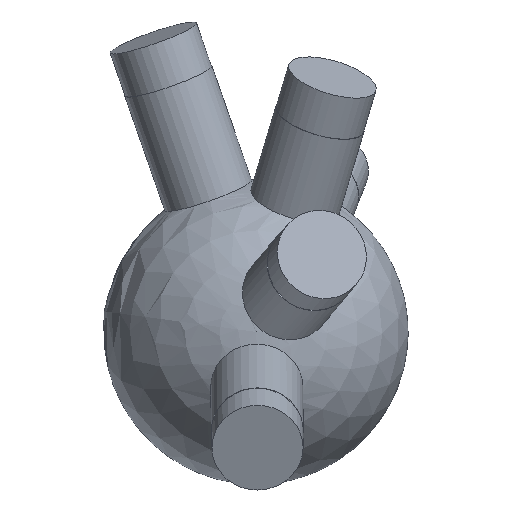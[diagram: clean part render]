
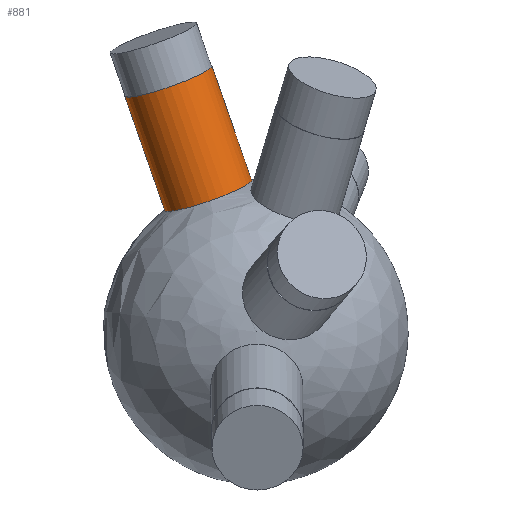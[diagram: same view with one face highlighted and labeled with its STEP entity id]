
A CAD part, top view. The second image highlights one B-rep face of the part: STEP entity #881.
In plain terms, the highlighted cylindrical face has radius 6 mm (diameter 12 mm), a full revolution.
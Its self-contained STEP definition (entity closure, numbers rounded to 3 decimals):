
#33 = SPHERICAL_SURFACE('',#34,20.);
#34 = AXIS2_PLACEMENT_3D('',#35,#36,#37);
#35 = CARTESIAN_POINT('',(0.,0.,0.));
#36 = DIRECTION('',(0.,0.,1.));
#37 = DIRECTION('',(1.,0.,-0.));
#475 = EDGE_CURVE('',#476,#476,#478,.T.);
#476 = VERTEX_POINT('',#477);
#477 = CARTESIAN_POINT('',(-0.57,19.838,
    2.475));
#478 = SURFACE_CURVE('',#479,(#484,#546),.PCURVE_S1.);
#479 = CIRCLE('',#480,6.);
#480 = AXIS2_PLACEMENT_3D('',#481,#482,#483);
#481 = CARTESIAN_POINT('',(-6.235,17.861,
    2.475));
#482 = DIRECTION('',(-0.327,0.936,0.13));
#483 = DIRECTION('',(-0.944,-0.33,0.
    ));
#484 = PCURVE('',#33,#485);
#485 = DEFINITIONAL_REPRESENTATION('',(#486),#545);
#486 = B_SPLINE_CURVE_WITH_KNOTS('',8,(#487,#488,#489,#490,#491,#492,
    #493,#494,#495,#496,#497,#498,#499,#500,#501,#502,#503,#504,#505,
    #506,#507,#508,#509,#510,#511,#512,#513,#514,#515,#516,#517,#518,
    #519,#520,#521,#522,#523,#524,#525,#526,#527,#528,#529,#530,#531,
    #532,#533,#534,#535,#536,#537,#538,#539,#540,#541,#542,#543,#544),
  .UNSPECIFIED.,.F.,.F.,(9,7,7,7,7,7,7,7,9),(3.142,
    3.927,4.614,5.216,6.268,
    7.057,7.649,8.537,9.425),
  .UNSPECIFIED.);
#487 = CARTESIAN_POINT('',(1.6,0.124));
#488 = CARTESIAN_POINT('',(1.601,0.095));
#489 = CARTESIAN_POINT('',(1.605,0.065));
#490 = CARTESIAN_POINT('',(1.612,0.037));
#491 = CARTESIAN_POINT('',(1.623,0.009));
#492 = CARTESIAN_POINT('',(1.636,-0.018));
#493 = CARTESIAN_POINT('',(1.652,-0.043));
#494 = CARTESIAN_POINT('',(1.671,-0.066));
#495 = CARTESIAN_POINT('',(1.71,-0.105));
#496 = CARTESIAN_POINT('',(1.731,-0.121));
#497 = CARTESIAN_POINT('',(1.752,-0.136));
#498 = CARTESIAN_POINT('',(1.776,-0.148));
#499 = CARTESIAN_POINT('',(1.8,-0.158));
#500 = CARTESIAN_POINT('',(1.825,-0.166));
#501 = CARTESIAN_POINT('',(1.851,-0.171));
#502 = CARTESIAN_POINT('',(1.9,-0.175));
#503 = CARTESIAN_POINT('',(1.923,-0.176));
#504 = CARTESIAN_POINT('',(1.946,-0.174));
#505 = CARTESIAN_POINT('',(1.968,-0.17));
#506 = CARTESIAN_POINT('',(1.991,-0.165));
#507 = CARTESIAN_POINT('',(2.012,-0.157));
#508 = CARTESIAN_POINT('',(2.033,-0.148));
#509 = CARTESIAN_POINT('',(2.088,-0.118));
#510 = CARTESIAN_POINT('',(2.12,-0.094));
#511 = CARTESIAN_POINT('',(2.148,-0.065));
#512 = CARTESIAN_POINT('',(2.172,-0.033));
#513 = CARTESIAN_POINT('',(2.19,0.003));
#514 = CARTESIAN_POINT('',(2.204,0.041));
#515 = CARTESIAN_POINT('',(2.211,0.08));
#516 = CARTESIAN_POINT('',(2.215,0.149));
#517 = CARTESIAN_POINT('',(2.214,0.179));
#518 = CARTESIAN_POINT('',(2.209,0.208));
#519 = CARTESIAN_POINT('',(2.201,0.237));
#520 = CARTESIAN_POINT('',(2.189,0.265));
#521 = CARTESIAN_POINT('',(2.175,0.291));
#522 = CARTESIAN_POINT('',(2.157,0.316));
#523 = CARTESIAN_POINT('',(2.121,0.355));
#524 = CARTESIAN_POINT('',(2.103,0.37));
#525 = CARTESIAN_POINT('',(2.085,0.384));
#526 = CARTESIAN_POINT('',(2.065,0.397));
#527 = CARTESIAN_POINT('',(2.043,0.407));
#528 = CARTESIAN_POINT('',(2.021,0.416));
#529 = CARTESIAN_POINT('',(1.998,0.423));
#530 = CARTESIAN_POINT('',(1.938,0.435));
#531 = CARTESIAN_POINT('',(1.901,0.438));
#532 = CARTESIAN_POINT('',(1.864,0.436));
#533 = CARTESIAN_POINT('',(1.827,0.43));
#534 = CARTESIAN_POINT('',(1.792,0.419));
#535 = CARTESIAN_POINT('',(1.759,0.404));
#536 = CARTESIAN_POINT('',(1.729,0.385));
#537 = CARTESIAN_POINT('',(1.676,0.34));
#538 = CARTESIAN_POINT('',(1.653,0.315));
#539 = CARTESIAN_POINT('',(1.634,0.286));
#540 = CARTESIAN_POINT('',(1.619,0.256));
#541 = CARTESIAN_POINT('',(1.608,0.224));
#542 = CARTESIAN_POINT('',(1.601,0.191));
#543 = CARTESIAN_POINT('',(1.598,0.157));
#544 = CARTESIAN_POINT('',(1.6,0.124));
#545 = ( GEOMETRIC_REPRESENTATION_CONTEXT(2) 
PARAMETRIC_REPRESENTATION_CONTEXT() REPRESENTATION_CONTEXT('2D SPACE',''
  ) );
#546 = PCURVE('',#547,#552);
#547 = CYLINDRICAL_SURFACE('',#548,6.);
#548 = AXIS2_PLACEMENT_3D('',#549,#550,#551);
#549 = CARTESIAN_POINT('',(0.,0.,0.));
#550 = DIRECTION('',(-0.327,0.936,0.13));
#551 = DIRECTION('',(0.944,0.33,0.));
#552 = DEFINITIONAL_REPRESENTATION('',(#553),#557);
#553 = LINE('',#554,#555);
#554 = CARTESIAN_POINT('',(-3.142,19.079));
#555 = VECTOR('',#556,1.);
#556 = DIRECTION('',(1.,0.));
#557 = ( GEOMETRIC_REPRESENTATION_CONTEXT(2) 
PARAMETRIC_REPRESENTATION_CONTEXT() REPRESENTATION_CONTEXT('2D SPACE',''
  ) );
#881 = ADVANCED_FACE('',(#882),#547,.T.);
#882 = FACE_BOUND('',#883,.T.);
#883 = EDGE_LOOP('',(#884,#907,#934,#935));
#884 = ORIENTED_EDGE('',*,*,#885,.T.);
#885 = EDGE_CURVE('',#476,#886,#888,.T.);
#886 = VERTEX_POINT('',#887);
#887 = CARTESIAN_POINT('',(-5.768,34.726,
    4.538));
#888 = SEAM_CURVE('',#889,(#893,#900),.PCURVE_S1.);
#889 = LINE('',#890,#891);
#890 = CARTESIAN_POINT('',(5.665,1.978,
    0.));
#891 = VECTOR('',#892,1.);
#892 = DIRECTION('',(-0.327,0.936,0.13));
#893 = PCURVE('',#547,#894);
#894 = DEFINITIONAL_REPRESENTATION('',(#895),#899);
#895 = LINE('',#896,#897);
#896 = CARTESIAN_POINT('',(6.283,-0.));
#897 = VECTOR('',#898,1.);
#898 = DIRECTION('',(0.,1.));
#899 = ( GEOMETRIC_REPRESENTATION_CONTEXT(2) 
PARAMETRIC_REPRESENTATION_CONTEXT() REPRESENTATION_CONTEXT('2D SPACE',''
  ) );
#900 = PCURVE('',#547,#901);
#901 = DEFINITIONAL_REPRESENTATION('',(#902),#906);
#902 = LINE('',#903,#904);
#903 = CARTESIAN_POINT('',(0.,-0.));
#904 = VECTOR('',#905,1.);
#905 = DIRECTION('',(0.,1.));
#906 = ( GEOMETRIC_REPRESENTATION_CONTEXT(2) 
PARAMETRIC_REPRESENTATION_CONTEXT() REPRESENTATION_CONTEXT('2D SPACE',''
  ) );
#907 = ORIENTED_EDGE('',*,*,#908,.F.);
#908 = EDGE_CURVE('',#886,#886,#909,.T.);
#909 = SURFACE_CURVE('',#910,(#915,#922),.PCURVE_S1.);
#910 = CIRCLE('',#911,6.);
#911 = AXIS2_PLACEMENT_3D('',#912,#913,#914);
#912 = CARTESIAN_POINT('',(-11.433,32.749,
    4.538));
#913 = DIRECTION('',(-0.327,0.936,0.13));
#914 = DIRECTION('',(0.944,0.33,0.));
#915 = PCURVE('',#547,#916);
#916 = DEFINITIONAL_REPRESENTATION('',(#917),#921);
#917 = LINE('',#918,#919);
#918 = CARTESIAN_POINT('',(0.,34.982));
#919 = VECTOR('',#920,1.);
#920 = DIRECTION('',(1.,0.));
#921 = ( GEOMETRIC_REPRESENTATION_CONTEXT(2) 
PARAMETRIC_REPRESENTATION_CONTEXT() REPRESENTATION_CONTEXT('2D SPACE',''
  ) );
#922 = PCURVE('',#923,#928);
#923 = PLANE('',#924);
#924 = AXIS2_PLACEMENT_3D('',#925,#926,#927);
#925 = CARTESIAN_POINT('',(-11.433,32.749,
    4.538));
#926 = DIRECTION('',(-0.327,0.936,0.13));
#927 = DIRECTION('',(0.944,0.33,0.));
#928 = DEFINITIONAL_REPRESENTATION('',(#929),#933);
#929 = CIRCLE('',#930,6.);
#930 = AXIS2_PLACEMENT_2D('',#931,#932);
#931 = CARTESIAN_POINT('',(0.,0.));
#932 = DIRECTION('',(1.,0.));
#933 = ( GEOMETRIC_REPRESENTATION_CONTEXT(2) 
PARAMETRIC_REPRESENTATION_CONTEXT() REPRESENTATION_CONTEXT('2D SPACE',''
  ) );
#934 = ORIENTED_EDGE('',*,*,#885,.F.);
#935 = ORIENTED_EDGE('',*,*,#475,.T.);
